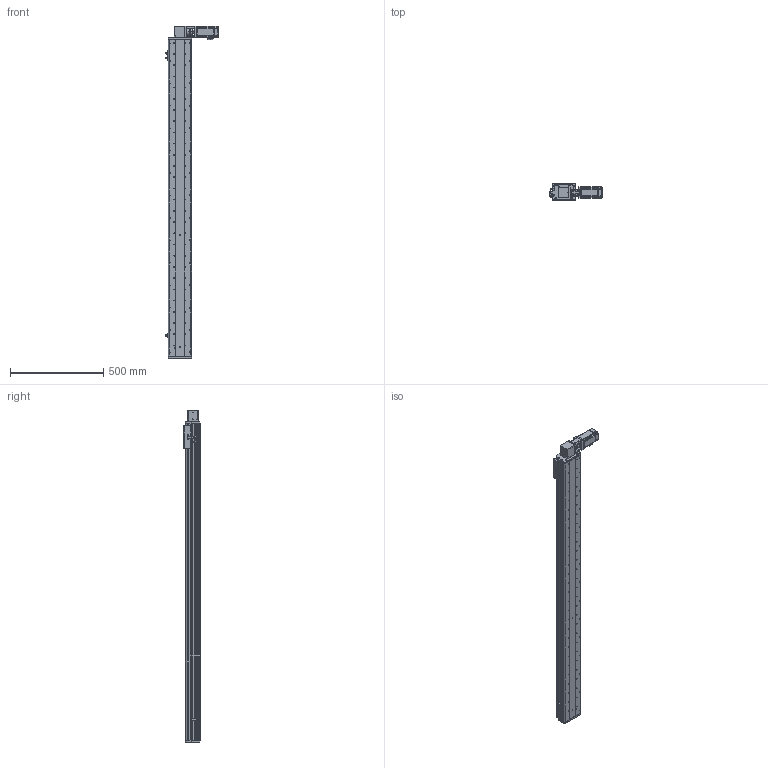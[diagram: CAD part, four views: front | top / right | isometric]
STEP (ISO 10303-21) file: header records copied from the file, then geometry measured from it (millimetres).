
FILE_DESCRIPTION (( 'STEP AP214' ), '1' );
FILE_NAME ('KSD125B-S1500-MRT-CM.STEP', '2017-10-21T07:14:09', ( '微软用户' ), ( '微软中国' ), 'SwSTEP 2.0', 'SolidWorks 2014', '' );
FILE_SCHEMA (( 'AUTOMOTIVE_DESIGN' ));
Length unit declared in the file: millimetre
Products named in the file (16): KSD125模组1500行程同步带-防尘盖; 125模组1500行程同步带-底板; MHMD042G1CA_2_03; KSD125模组同步带-防撞垫2; CS-34X32-10X14; 100遵鎮湛假蚾啣1 ; 覜茼え68遵圉猾敕; U倰嫖萇假蚾璃; U倰嫖萇EEㄜSX672; KSD125模组同步带-防撞垫1; 100宽安装板同步带带电机座400W,86; 前端板-125宽模组同步带; 125模组同步带-尾端板1; KSD125模组同步带-滑动座1; KSD125B-S1500-MRT-CM; 100宽马达安装板同步带左
Assembly tree (19 placements, depth 2):
  KSD125B-S1500-MRT-CM
    KSD125模组同步带-滑动座1
    125模组同步带-尾端板1
    前端板-125宽模组同步带
    100宽安装板同步带带电机座400W,86
    KSD125模组同步带-防撞垫1
    U倰嫖萇EEㄜSX672  x3
    U倰嫖萇假蚾璃  x3
    覜茼え68遵圉猾敕
    100遵鎮湛假蚾啣1 
    CS-34X32-10X14
    KSD125模组同步带-防撞垫2
    MHMD042G1CA_2_03
    125模组1500行程同步带-底板
    KSD125模组1500行程同步带-防尘盖
    100宽马达安装板同步带左
Bounding box: 282.7 x 86 x 1777 mm (x, y, z)
Volume: 5241605.3 mm3; surface area: 1709854.4 mm2
Topology: 18 solids, 21 shells, 1800 faces, 5176 edges, 3416 vertices
Faces by surface type: cylinder 981, plane 716, cone 81, bspline 22
Entity records: 63984 total; most frequent: CARTESIAN_POINT 12866, DIRECTION 9391, ORIENTED_EDGE 8872, EDGE_CURVE 4514, AXIS2_PLACEMENT_3D 3525, VERTEX_POINT 3008, VECTOR 2341, LINE 2341
